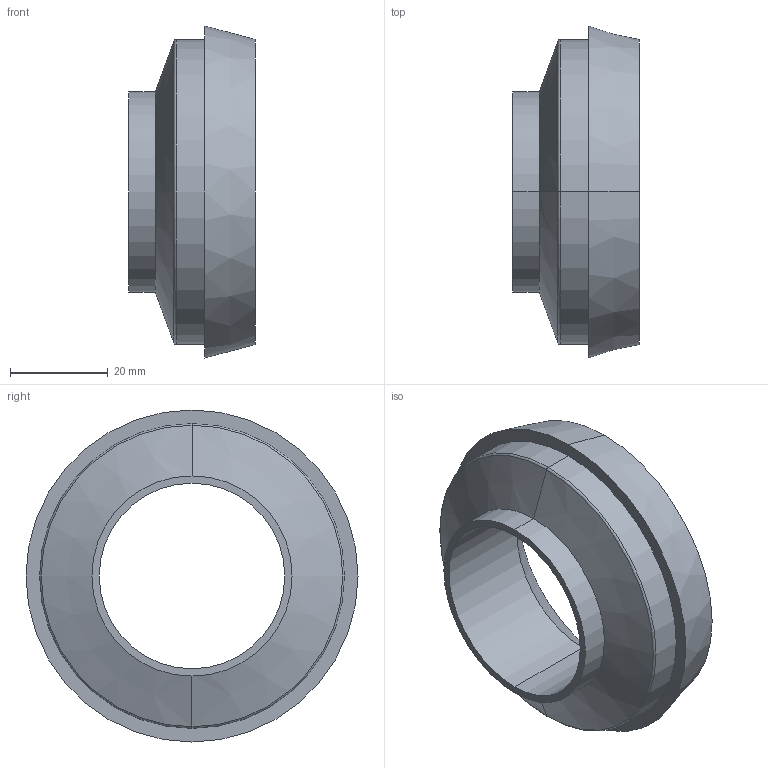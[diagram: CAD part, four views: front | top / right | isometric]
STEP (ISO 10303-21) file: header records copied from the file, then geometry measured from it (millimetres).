
FILE_DESCRIPTION (( 'STEP AP203' ), '1' );
FILE_NAME ('3D-M2024P_50-40_174211145.STEP', '2024-09-06T09:56:49', ( '' ), ( '' ), 'SwSTEP 2.0', 'SolidWorks 2024', '' );
FILE_SCHEMA (( 'CONFIG_CONTROL_DESIGN' ));
Length unit declared in the file: millimetre
Products named in the file (1): 3D-M2024P_50-40_174211145
Bounding box: 26 x 68 x 68 mm (x, y, z)
Volume: 37317 mm3; surface area: 11373.5 mm2
Topology: 1 solids, 1 shells, 17 faces, 34 edges, 20 vertices
Faces by surface type: cone 6, cylinder 6, plane 3, torus 2
Entity records: 527 total; most frequent: DIRECTION 92, CARTESIAN_POINT 72, ORIENTED_EDGE 68, AXIS2_PLACEMENT_3D 40, EDGE_CURVE 34, CIRCLE 22, EDGE_LOOP 20, VERTEX_POINT 20
